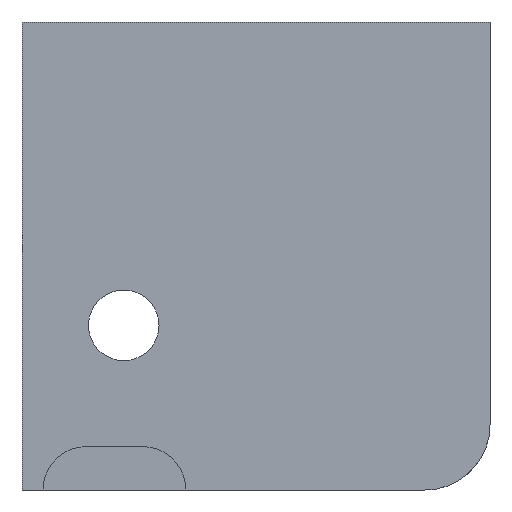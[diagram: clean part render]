
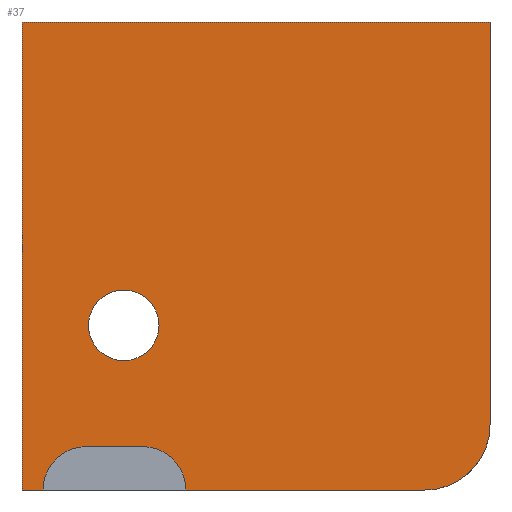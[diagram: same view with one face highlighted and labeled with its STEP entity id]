
A CAD part, left-side view. The second image highlights one B-rep face of the part: STEP entity #37.
In plain terms, the highlighted planar face has unit normal (-1, 0, 0).
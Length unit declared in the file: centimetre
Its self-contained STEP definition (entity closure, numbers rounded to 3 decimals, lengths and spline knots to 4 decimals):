
#9 = CARTESIAN_POINT ( 'NONE',  ( 0., 139.2615, 0. ) ) ;
#17 = VERTEX_POINT ( 'NONE', #9 ) ;
#28 = EDGE_LOOP ( 'NONE', ( #305, #421, #744, #347, #491, #81, #895, #422, #76 ) ) ;
#37 = ADVANCED_FACE ( 'NONE', ( #485, #506 ), #169, .F. ) ;
#48 = EDGE_CURVE ( 'NONE', #823, #906, #889, .T. ) ;
#58 = LINE ( 'NONE', #154, #454 ) ;
#62 = VERTEX_POINT ( 'NONE', #159 ) ;
#65 = AXIS2_PLACEMENT_3D ( 'NONE', #656, #821, #163 ) ;
#76 = ORIENTED_EDGE ( 'NONE', *, *, #48, .F. ) ;
#81 = ORIENTED_EDGE ( 'NONE', *, *, #318, .F. ) ;
#82 = CARTESIAN_POINT ( 'NONE',  ( 0., 1000., 0. ) ) ;
#87 = EDGE_CURVE ( 'NONE', #272, #17, #488, .T. ) ;
#105 = CARTESIAN_POINT ( 'NONE',  ( 0., 862.5006, 92.7742 ) ) ;
#154 = CARTESIAN_POINT ( 'NONE',  ( 0., 1000., 0. ) ) ;
#159 = CARTESIAN_POINT ( 'NONE',  ( 0., 0., 1000. ) ) ;
#163 = DIRECTION ( 'NONE',  ( 0., 0., -1. ) ) ;
#169 = PLANE ( 'NONE',  #65 ) ;
#175 = CIRCLE ( 'NONE', #281, 139.2615 ) ;
#192 = DIRECTION ( 'NONE',  ( 0., 0., -1. ) ) ;
#249 = DIRECTION ( 'NONE',  ( 0., 1., 0. ) ) ;
#256 = CARTESIAN_POINT ( 'NONE',  ( 0., 862.5006, 0. ) ) ;
#257 = LINE ( 'NONE', #105, #573 ) ;
#266 = VERTEX_POINT ( 'NONE', #859 ) ;
#272 = VERTEX_POINT ( 'NONE', #386 ) ;
#281 = AXIS2_PLACEMENT_3D ( 'NONE', #357, #513, #192 ) ;
#285 = AXIS2_PLACEMENT_3D ( 'NONE', #256, #570, #899 ) ;
#299 = DIRECTION ( 'NONE',  ( 0., 0., 1. ) ) ;
#302 = AXIS2_PLACEMENT_3D ( 'NONE', #643, #972, #564 ) ;
#305 = ORIENTED_EDGE ( 'NONE', *, *, #478, .F. ) ;
#311 = CARTESIAN_POINT ( 'NONE',  ( 0., 0., 139.2615 ) ) ;
#318 = EDGE_CURVE ( 'NONE', #266, #62, #980, .T. ) ;
#319 = CIRCLE ( 'NONE', #915, 75.347 ) ;
#340 = VECTOR ( 'NONE', #884, 100. ) ;
#343 = VERTEX_POINT ( 'NONE', #807 ) ;
#347 = ORIENTED_EDGE ( 'NONE', *, *, #677, .T. ) ;
#357 = CARTESIAN_POINT ( 'NONE',  ( 0., 139.2615, 139.2615 ) ) ;
#371 = AXIS2_PLACEMENT_3D ( 'NONE', #408, #659, #985 ) ;
#380 = VERTEX_POINT ( 'NONE', #395 ) ;
#386 = CARTESIAN_POINT ( 'NONE',  ( 0., 649.7097, 0. ) ) ;
#389 = DIRECTION ( 'NONE',  ( 0., -1., 0. ) ) ;
#395 = CARTESIAN_POINT ( 'NONE',  ( 0., 782.601, 427.1236 ) ) ;
#396 = VERTEX_POINT ( 'NONE', #311 ) ;
#397 = LINE ( 'NONE', #724, #660 ) ;
#403 = CIRCLE ( 'NONE', #371, 75.347 ) ;
#404 = VERTEX_POINT ( 'NONE', #897 ) ;
#408 = CARTESIAN_POINT ( 'NONE',  ( 0., 782.601, 351.7765 ) ) ;
#421 = ORIENTED_EDGE ( 'NONE', *, *, #463, .T. ) ;
#422 = ORIENTED_EDGE ( 'NONE', *, *, #841, .T. ) ;
#454 = VECTOR ( 'NONE', #389, 100. ) ;
#463 = EDGE_CURVE ( 'NONE', #343, #272, #901, .T. ) ;
#478 = EDGE_CURVE ( 'NONE', #343, #823, #257, .T. ) ;
#482 = CARTESIAN_POINT ( 'NONE',  ( 0., 1000., 1000. ) ) ;
#485 = FACE_BOUND ( 'NONE', #898, .T. ) ;
#488 = LINE ( 'NONE', #82, #732 ) ;
#491 = ORIENTED_EDGE ( 'NONE', *, *, #736, .F. ) ;
#506 = FACE_OUTER_BOUND ( 'NONE', #28, .T. ) ;
#513 = DIRECTION ( 'NONE',  ( -1., 0., 0. ) ) ;
#546 = CARTESIAN_POINT ( 'NONE',  ( 0., 782.601, 276.4295 ) ) ;
#552 = DIRECTION ( 'NONE',  ( 0., 0., -1. ) ) ;
#564 = DIRECTION ( 'NONE',  ( 0., 0., -1. ) ) ;
#570 = DIRECTION ( 'NONE',  ( -1., 0., 0. ) ) ;
#573 = VECTOR ( 'NONE', #249, 100. ) ;
#612 = EDGE_CURVE ( 'NONE', #715, #380, #403, .T. ) ;
#618 = CARTESIAN_POINT ( 'NONE',  ( 0., 1000., 1000. ) ) ;
#643 = CARTESIAN_POINT ( 'NONE',  ( 0., 742.4838, 0. ) ) ;
#656 = CARTESIAN_POINT ( 'NONE',  ( 0., 1000., 1000. ) ) ;
#659 = DIRECTION ( 'NONE',  ( -1., 0., 0. ) ) ;
#660 = VECTOR ( 'NONE', #552, 100. ) ;
#677 = EDGE_CURVE ( 'NONE', #17, #396, #175, .T. ) ;
#699 = EDGE_CURVE ( 'NONE', #266, #404, #1036, .T. ) ;
#714 = DIRECTION ( 'NONE',  ( 0., 0., -1. ) ) ;
#715 = VERTEX_POINT ( 'NONE', #546 ) ;
#724 = CARTESIAN_POINT ( 'NONE',  ( 0., 0., 1000. ) ) ;
#732 = VECTOR ( 'NONE', #742, 100. ) ;
#733 = DIRECTION ( 'NONE',  ( -1., 0., 0. ) ) ;
#736 = EDGE_CURVE ( 'NONE', #62, #396, #397, .T. ) ;
#742 = DIRECTION ( 'NONE',  ( 0., -1., 0. ) ) ;
#744 = ORIENTED_EDGE ( 'NONE', *, *, #87, .T. ) ;
#749 = ORIENTED_EDGE ( 'NONE', *, *, #826, .F. ) ;
#757 = CARTESIAN_POINT ( 'NONE',  ( 0., 955.2748, 0. ) ) ;
#799 = CARTESIAN_POINT ( 'NONE',  ( 0., 782.601, 351.7765 ) ) ;
#807 = CARTESIAN_POINT ( 'NONE',  ( 0., 742.4838, 92.7742 ) ) ;
#821 = DIRECTION ( 'NONE',  ( 1., 0., 0. ) ) ;
#823 = VERTEX_POINT ( 'NONE', #893 ) ;
#826 = EDGE_CURVE ( 'NONE', #380, #715, #319, .T. ) ;
#841 = EDGE_CURVE ( 'NONE', #404, #906, #58, .T. ) ;
#859 = CARTESIAN_POINT ( 'NONE',  ( 0., 1000., 1000. ) ) ;
#884 = DIRECTION ( 'NONE',  ( 0., -1., 0. ) ) ;
#889 = CIRCLE ( 'NONE', #285, 92.7742 ) ;
#893 = CARTESIAN_POINT ( 'NONE',  ( 0., 862.5006, 92.7742 ) ) ;
#895 = ORIENTED_EDGE ( 'NONE', *, *, #699, .T. ) ;
#897 = CARTESIAN_POINT ( 'NONE',  ( 0., 1000., 0. ) ) ;
#898 = EDGE_LOOP ( 'NONE', ( #749, #1018 ) ) ;
#899 = DIRECTION ( 'NONE',  ( 0., 0., -1. ) ) ;
#901 = CIRCLE ( 'NONE', #302, 92.7742 ) ;
#906 = VERTEX_POINT ( 'NONE', #757 ) ;
#915 = AXIS2_PLACEMENT_3D ( 'NONE', #799, #733, #299 ) ;
#970 = VECTOR ( 'NONE', #714, 100. ) ;
#972 = DIRECTION ( 'NONE',  ( 1., 0., 0. ) ) ;
#980 = LINE ( 'NONE', #482, #340 ) ;
#985 = DIRECTION ( 'NONE',  ( 0., 0., 1. ) ) ;
#1018 = ORIENTED_EDGE ( 'NONE', *, *, #612, .F. ) ;
#1036 = LINE ( 'NONE', #618, #970 ) ;
